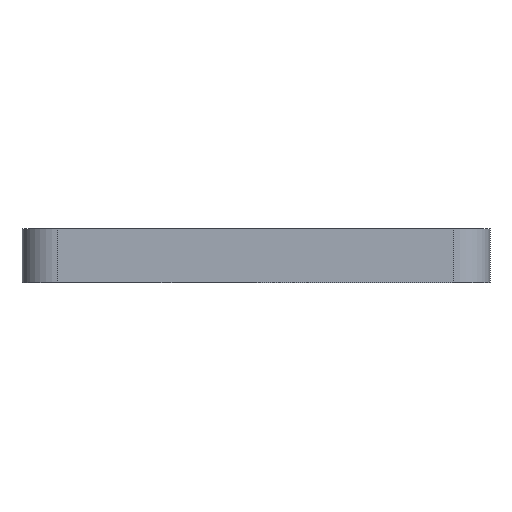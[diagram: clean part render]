
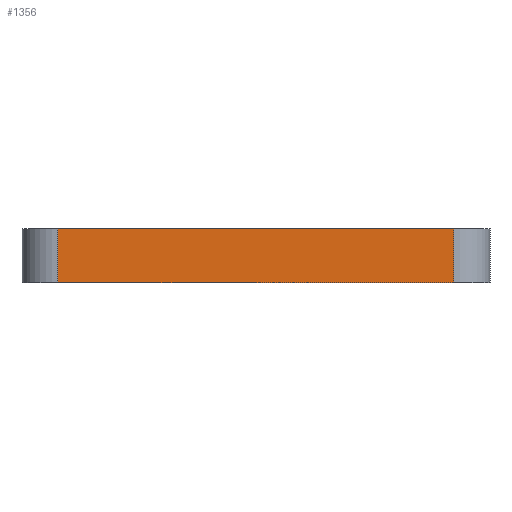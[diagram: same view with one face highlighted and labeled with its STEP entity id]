
A CAD part, left-side view. The second image highlights one B-rep face of the part: STEP entity #1356.
In plain terms, the highlighted planar face has unit normal (-1, 0, 0).
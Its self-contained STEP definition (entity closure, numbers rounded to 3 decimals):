
#1329=AXIS2_PLACEMENT_3D('Plane Axis2P3D',#1326,#1327,#1328) ;
#1297=CARTESIAN_POINT('Vertex',(0.,-120.,15.)) ;
#1300=CARTESIAN_POINT('Line Origine',(0.,-120.,7.5)) ;
#1304=CARTESIAN_POINT('Vertex',(0.,-120.,0.)) ;
#1326=CARTESIAN_POINT('Axis2P3D Location',(0.,0.,0.)) ;
#1331=CARTESIAN_POINT('Line Origine',(0.,-65.,0.)) ;
#1335=CARTESIAN_POINT('Vertex',(0.,-10.,0.)) ;
#1338=CARTESIAN_POINT('Line Origine',(0.,-65.,15.)) ;
#1342=CARTESIAN_POINT('Vertex',(0.,-10.,15.)) ;
#1345=CARTESIAN_POINT('Line Origine',(0.,-10.,7.5)) ;
#1301=DIRECTION('Vector Direction',(0.,0.,1.)) ;
#1327=DIRECTION('Axis2P3D Direction',(-1.,0.,0.)) ;
#1328=DIRECTION('Axis2P3D XDirection',(0.,-1.,0.)) ;
#1332=DIRECTION('Vector Direction',(0.,-1.,0.)) ;
#1339=DIRECTION('Vector Direction',(0.,-1.,0.)) ;
#1346=DIRECTION('Vector Direction',(0.,0.,1.)) ;
#1302=VECTOR('Line Direction',#1301,1.) ;
#1333=VECTOR('Line Direction',#1332,1.) ;
#1340=VECTOR('Line Direction',#1339,1.) ;
#1347=VECTOR('Line Direction',#1346,1.) ;
#1351=ORIENTED_EDGE('',*,*,#1337,.T.) ;
#1352=ORIENTED_EDGE('',*,*,#1306,.T.) ;
#1353=ORIENTED_EDGE('',*,*,#1344,.F.) ;
#1354=ORIENTED_EDGE('',*,*,#1349,.F.) ;
#1356=ADVANCED_FACE('\X2\96F64EF651E04F554F53\X0\',(#1355),#1330,.T.) ;
#1306=EDGE_CURVE('',#1305,#1298,#1303,.T.) ;
#1337=EDGE_CURVE('',#1336,#1305,#1334,.T.) ;
#1344=EDGE_CURVE('',#1343,#1298,#1341,.T.) ;
#1349=EDGE_CURVE('',#1336,#1343,#1348,.T.) ;
#1350=EDGE_LOOP('',(#1351,#1352,#1353,#1354)) ;
#1355=FACE_OUTER_BOUND('',#1350,.T.) ;
#1303=LINE('Line',#1300,#1302) ;
#1334=LINE('Line',#1331,#1333) ;
#1341=LINE('Line',#1338,#1340) ;
#1348=LINE('Line',#1345,#1347) ;
#1330=PLANE('',#1329) ;
#1298=VERTEX_POINT('',#1297) ;
#1305=VERTEX_POINT('',#1304) ;
#1336=VERTEX_POINT('',#1335) ;
#1343=VERTEX_POINT('',#1342) ;
